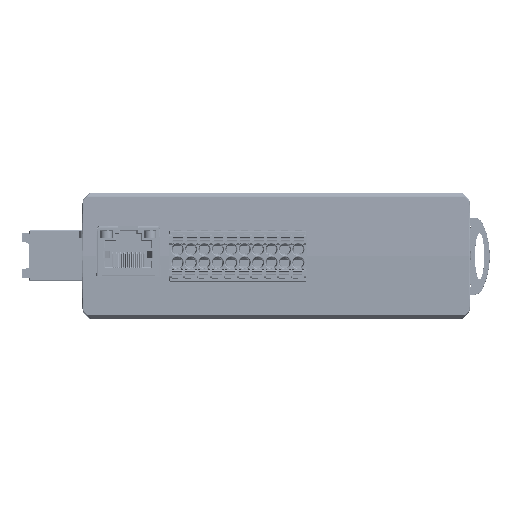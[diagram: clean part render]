
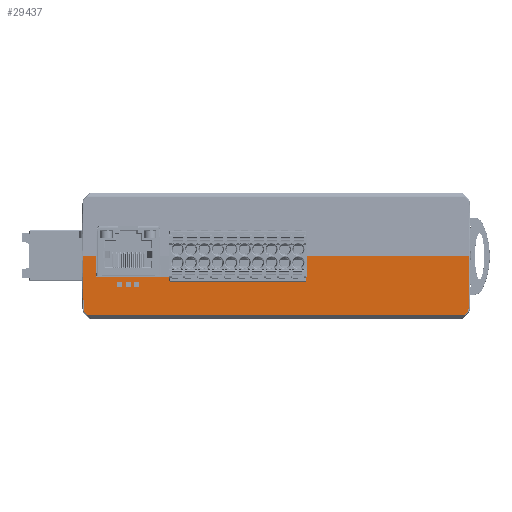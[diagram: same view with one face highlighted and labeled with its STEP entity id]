
A CAD part, top view. The second image highlights one B-rep face of the part: STEP entity #29437.
In plain terms, the highlighted planar face has unit normal (0, -0.018, 1).
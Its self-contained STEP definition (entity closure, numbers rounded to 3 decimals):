
#3139=DIRECTION('',(-1.,0.,0.));
#3140=VECTOR('',#3139,42.349);
#3141=CARTESIAN_POINT('',(50.449,-0.05,
37.499));
#3142=LINE('',#3141,#3140);
#3552=DIRECTION('',(0.,-1.,-0.017));
#3553=VECTOR('',#3552,1.5);
#3554=CARTESIAN_POINT('',(-37.975,-6.75,37.382));
#3555=LINE('',#3554,#3553);
#3587=DIRECTION('',(0.,1.,0.017));
#3588=VECTOR('',#3587,1.5);
#3589=CARTESIAN_POINT('',(-39.275,-8.25,37.356));
#3590=LINE('',#3589,#3588);
#3615=DIRECTION('',(1.,0.,0.));
#3616=VECTOR('',#3615,54.954);
#3617=CARTESIAN_POINT('',(-46.854,-5.55,37.403));
#3618=LINE('',#3617,#3616);
#3622=DIRECTION('',(-0.017,-1.,-0.017));
#3623=VECTOR('',#3622,14.046);
#3624=CARTESIAN_POINT('',(50.449,-0.05,
37.499));
#3625=LINE('',#3624,#3623);
#3629=CARTESIAN_POINT('',(49.504,-14.079,37.254));
#3630=DIRECTION('',(0.,0.017,-1.));
#3631=DIRECTION('',(1.,-0.017,0.));
#3632=AXIS2_PLACEMENT_3D('',#3629,#3630,#3631);
#3637=DIRECTION('',(-0.713,-0.701,-0.012));
#3638=VECTOR('',#3637,1.14);
#3639=CARTESIAN_POINT('',(49.995,-14.578,37.246));
#3640=LINE('',#3639,#3638);
#3644=DIRECTION('',(-0.713,0.701,0.012));
#3645=VECTOR('',#3644,1.14);
#3646=CARTESIAN_POINT('',(-49.182,-15.377,
37.232));
#3647=LINE('',#3646,#3645);
#3651=CARTESIAN_POINT('',(-49.504,-14.079,
37.254));
#3652=DIRECTION('',(0.,0.017,-1.));
#3653=DIRECTION('',(-0.701,-0.713,-0.012));
#3654=AXIS2_PLACEMENT_3D('',#3651,#3652,#3653);
#3659=DIRECTION('',(-0.017,1.,0.017));
#3660=VECTOR('',#3659,14.046);
#3661=CARTESIAN_POINT('',(-50.204,-14.091,
37.254));
#3662=LINE('',#3661,#3660);
#3666=DIRECTION('',(1.,0.,0.));
#3667=VECTOR('',#3666,3.499);
#3668=CARTESIAN_POINT('',(-50.449,-0.05,
37.499));
#3669=LINE('',#3668,#3667);
#3673=DIRECTION('',(0.017,-1.,-0.017));
#3674=VECTOR('',#3673,5.502);
#3675=CARTESIAN_POINT('',(-46.95,-0.05,37.499));
#3676=LINE('',#3675,#3674);
#3680=DIRECTION('',(-1.,0.,0.));
#3681=VECTOR('',#3680,1.3);
#3682=CARTESIAN_POINT('',(-35.725,-6.75,37.382));
#3683=LINE('',#3682,#3681);
#3687=DIRECTION('',(1.,0.,0.));
#3688=VECTOR('',#3687,1.3);
#3689=CARTESIAN_POINT('',(-37.025,-8.25,37.356));
#3690=LINE('',#3689,#3688);
#3694=DIRECTION('',(-1.,0.,0.));
#3695=VECTOR('',#3694,1.3);
#3696=CARTESIAN_POINT('',(-40.225,-6.75,37.382));
#3697=LINE('',#3696,#3695);
#3701=DIRECTION('',(1.,0.,0.));
#3702=VECTOR('',#3701,1.3);
#3703=CARTESIAN_POINT('',(-41.525,-8.25,37.356));
#3704=LINE('',#3703,#3702);
#3708=DIRECTION('',(-1.,0.,0.));
#3709=VECTOR('',#3708,1.3);
#3710=CARTESIAN_POINT('',(-37.975,-6.75,37.382));
#3711=LINE('',#3710,#3709);
#3715=DIRECTION('',(1.,0.,0.));
#3716=VECTOR('',#3715,1.3);
#3717=CARTESIAN_POINT('',(-39.275,-8.25,37.356));
#3718=LINE('',#3717,#3716);
#3848=DIRECTION('',(0.,-1.,-0.017));
#3849=VECTOR('',#3848,5.501);
#3850=CARTESIAN_POINT('',(8.1,-0.05,37.499));
#3851=LINE('',#3850,#3849);
#12219=DIRECTION('',(1.,0.,0.));
#12220=VECTOR('',#12219,98.363);
#12221=CARTESIAN_POINT('',(-49.182,-15.377,
37.232));
#12222=LINE('',#12221,#12220);
#20826=DIRECTION('',(0.,-1.,-0.017));
#20827=VECTOR('',#20826,1.5);
#20828=CARTESIAN_POINT('',(-35.725,-6.75,37.382));
#20829=LINE('',#20828,#20827);
#20861=DIRECTION('',(0.,1.,0.017));
#20862=VECTOR('',#20861,1.5);
#20863=CARTESIAN_POINT('',(-37.025,-8.25,37.356));
#20864=LINE('',#20863,#20862);
#20896=DIRECTION('',(0.,-1.,-0.017));
#20897=VECTOR('',#20896,1.5);
#20898=CARTESIAN_POINT('',(-40.225,-6.75,37.382));
#20899=LINE('',#20898,#20897);
#20931=DIRECTION('',(0.,1.,0.017));
#20932=VECTOR('',#20931,1.5);
#20933=CARTESIAN_POINT('',(-41.525,-8.25,37.356));
#20934=LINE('',#20933,#20932);
#21661=CARTESIAN_POINT('',(-37.975,-6.75,37.382));
#21662=CARTESIAN_POINT('',(-37.975,-8.25,37.356));
#21663=VERTEX_POINT('',#21661);
#21664=VERTEX_POINT('',#21662);
#21665=CARTESIAN_POINT('',(-46.854,-5.55,37.403));
#21666=CARTESIAN_POINT('',(8.1,-5.55,37.403));
#21667=VERTEX_POINT('',#21665);
#21668=VERTEX_POINT('',#21666);
#21669=CARTESIAN_POINT('',(8.1,-0.05,37.499));
#21670=VERTEX_POINT('',#21669);
#21671=CARTESIAN_POINT('',(50.449,-0.05,
37.499));
#21672=VERTEX_POINT('',#21671);
#21673=CARTESIAN_POINT('',(50.204,-14.091,
37.254));
#21674=VERTEX_POINT('',#21673);
#21675=CARTESIAN_POINT('',(49.995,-14.578,
37.246));
#21676=VERTEX_POINT('',#21675);
#21677=CARTESIAN_POINT('',(49.182,-15.377,
37.232));
#21678=VERTEX_POINT('',#21677);
#21679=CARTESIAN_POINT('',(-49.182,-15.377,
37.232));
#21680=VERTEX_POINT('',#21679);
#21681=CARTESIAN_POINT('',(-49.995,-14.578,37.246));
#21682=VERTEX_POINT('',#21681);
#21683=CARTESIAN_POINT('',(-50.204,-14.091,
37.254));
#21684=VERTEX_POINT('',#21683);
#21685=CARTESIAN_POINT('',(-50.449,-0.05,
37.499));
#21686=VERTEX_POINT('',#21685);
#21687=CARTESIAN_POINT('',(-46.95,-0.05,37.499));
#21688=VERTEX_POINT('',#21687);
#21689=CARTESIAN_POINT('',(-35.725,-6.75,37.382));
#21690=CARTESIAN_POINT('',(-35.725,-8.25,37.356));
#21691=VERTEX_POINT('',#21689);
#21692=VERTEX_POINT('',#21690);
#21693=CARTESIAN_POINT('',(-37.025,-6.75,37.382));
#21694=VERTEX_POINT('',#21693);
#21695=CARTESIAN_POINT('',(-37.025,-8.25,37.356));
#21696=VERTEX_POINT('',#21695);
#21697=CARTESIAN_POINT('',(-40.225,-6.75,37.382));
#21698=CARTESIAN_POINT('',(-40.225,-8.25,37.356));
#21699=VERTEX_POINT('',#21697);
#21700=VERTEX_POINT('',#21698);
#21701=CARTESIAN_POINT('',(-41.525,-6.75,37.382));
#21702=VERTEX_POINT('',#21701);
#21703=CARTESIAN_POINT('',(-41.525,-8.25,37.356));
#21704=VERTEX_POINT('',#21703);
#21705=CARTESIAN_POINT('',(-39.275,-6.75,37.382));
#21706=VERTEX_POINT('',#21705);
#21707=CARTESIAN_POINT('',(-39.275,-8.25,37.356));
#21708=VERTEX_POINT('',#21707);
#29382=CARTESIAN_POINT('',(-52.95,0.,37.5));
#29383=DIRECTION('',(0.,-0.017,1.));
#29384=DIRECTION('',(-1.,0.,0.));
#29385=AXIS2_PLACEMENT_3D('',#29382,#29383,#29384);
#29386=PLANE('',#29385);
#29388=ORIENTED_EDGE('',*,*,#29387,.T.);
#29390=ORIENTED_EDGE('',*,*,#29389,.F.);
#29391=ORIENTED_EDGE('',*,*,#28856,.F.);
#29393=ORIENTED_EDGE('',*,*,#29392,.T.);
#29395=ORIENTED_EDGE('',*,*,#29394,.T.);
#29397=ORIENTED_EDGE('',*,*,#29396,.T.);
#29399=ORIENTED_EDGE('',*,*,#29398,.F.);
#29401=ORIENTED_EDGE('',*,*,#29400,.T.);
#29403=ORIENTED_EDGE('',*,*,#29402,.T.);
#29405=ORIENTED_EDGE('',*,*,#29404,.T.);
#29406=ORIENTED_EDGE('',*,*,#28864,.T.);
#29408=ORIENTED_EDGE('',*,*,#29407,.T.);
#29409=EDGE_LOOP('',(#29388,#29390,#29391,#29393,#29395,#29397,#29399,#29401,
#29403,#29405,#29406,#29408));
#29410=FACE_OUTER_BOUND('',#29409,.F.);
#29412=ORIENTED_EDGE('',*,*,#29411,.F.);
#29414=ORIENTED_EDGE('',*,*,#29413,.T.);
#29416=ORIENTED_EDGE('',*,*,#29415,.F.);
#29418=ORIENTED_EDGE('',*,*,#29417,.T.);
#29419=EDGE_LOOP('',(#29412,#29414,#29416,#29418));
#29420=FACE_BOUND('',#29419,.F.);
#29422=ORIENTED_EDGE('',*,*,#29421,.F.);
#29424=ORIENTED_EDGE('',*,*,#29423,.T.);
#29426=ORIENTED_EDGE('',*,*,#29425,.F.);
#29428=ORIENTED_EDGE('',*,*,#29427,.T.);
#29429=EDGE_LOOP('',(#29422,#29424,#29426,#29428));
#29430=FACE_BOUND('',#29429,.F.);
#29431=ORIENTED_EDGE('',*,*,#29306,.F.);
#29432=ORIENTED_EDGE('',*,*,#29328,.T.);
#29433=ORIENTED_EDGE('',*,*,#29349,.F.);
#29434=ORIENTED_EDGE('',*,*,#29369,.T.);
#29435=EDGE_LOOP('',(#29431,#29432,#29433,#29434));
#29436=FACE_BOUND('',#29435,.F.);
#3633=CIRCLE('',#3632,0.7);
#3655=CIRCLE('',#3654,0.7);
#28856=EDGE_CURVE('',#21672,#21670,#3142,.T.);
#28864=EDGE_CURVE('',#21686,#21688,#3669,.T.);
#29306=EDGE_CURVE('',#21663,#21664,#3555,.T.);
#29328=EDGE_CURVE('',#21663,#21706,#3711,.T.);
#29349=EDGE_CURVE('',#21708,#21706,#3590,.T.);
#29369=EDGE_CURVE('',#21708,#21664,#3718,.T.);
#29387=EDGE_CURVE('',#21667,#21668,#3618,.T.);
#29389=EDGE_CURVE('',#21670,#21668,#3851,.T.);
#29392=EDGE_CURVE('',#21672,#21674,#3625,.T.);
#29394=EDGE_CURVE('',#21674,#21676,#3633,.T.);
#29396=EDGE_CURVE('',#21676,#21678,#3640,.T.);
#29398=EDGE_CURVE('',#21680,#21678,#12222,.T.);
#29400=EDGE_CURVE('',#21680,#21682,#3647,.T.);
#29402=EDGE_CURVE('',#21682,#21684,#3655,.T.);
#29404=EDGE_CURVE('',#21684,#21686,#3662,.T.);
#29407=EDGE_CURVE('',#21688,#21667,#3676,.T.);
#29411=EDGE_CURVE('',#21691,#21692,#20829,.T.);
#29413=EDGE_CURVE('',#21691,#21694,#3683,.T.);
#29415=EDGE_CURVE('',#21696,#21694,#20864,.T.);
#29417=EDGE_CURVE('',#21696,#21692,#3690,.T.);
#29421=EDGE_CURVE('',#21699,#21700,#20899,.T.);
#29423=EDGE_CURVE('',#21699,#21702,#3697,.T.);
#29425=EDGE_CURVE('',#21704,#21702,#20934,.T.);
#29427=EDGE_CURVE('',#21704,#21700,#3704,.T.);
#29437=ADVANCED_FACE('',(#29410,#29420,#29430,#29436),#29386,.T.);
